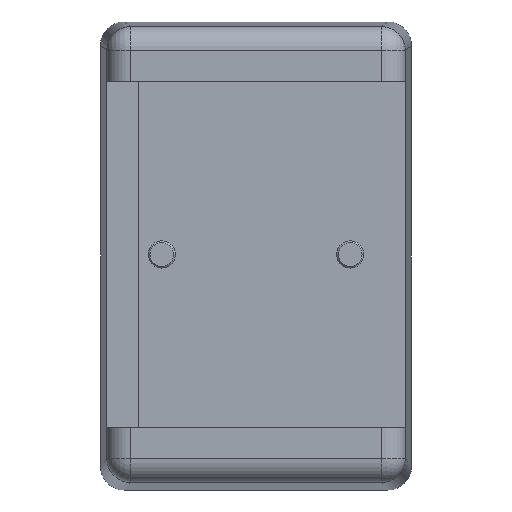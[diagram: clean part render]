
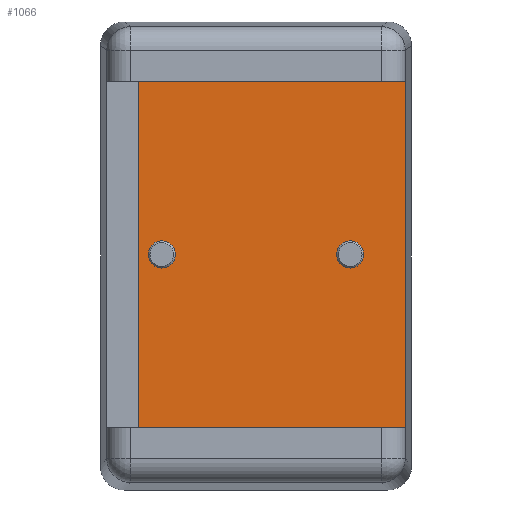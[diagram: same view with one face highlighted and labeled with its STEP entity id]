
A CAD part, top view. The second image highlights one B-rep face of the part: STEP entity #1066.
In plain terms, the highlighted planar face has unit normal (0, 0, 1).
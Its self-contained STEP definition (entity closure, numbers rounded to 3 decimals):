
#708=CARTESIAN_POINT('',(-6.,0.864,54.));
#709=VERTEX_POINT('',#708);
#710=CARTESIAN_POINT('',(-6.,0.,54.));
#711=DIRECTION('',(0.0,0.0,-1.0));
#712=DIRECTION('',(0.0,-1.0,0.0));
#713=AXIS2_PLACEMENT_3D('',#710,#711,#712);
#714=CIRCLE('',#713,0.865);
#715=EDGE_CURVE('',#709,#709,#714,.T.);
#728=CARTESIAN_POINT('',(6.,0.864,54.));
#729=VERTEX_POINT('',#728);
#730=CARTESIAN_POINT('',(6.,0.,54.));
#731=DIRECTION('',(0.0,0.0,-1.0));
#732=DIRECTION('',(0.0,-1.0,0.0));
#733=AXIS2_PLACEMENT_3D('',#730,#731,#732);
#734=CIRCLE('',#733,0.865);
#735=EDGE_CURVE('',#729,#729,#734,.T.);
#880=CARTESIAN_POINT('',(9.5,-11.,54.));
#881=VERTEX_POINT('',#880);
#888=CARTESIAN_POINT('',(-7.499,-11.,54.));
#889=VERTEX_POINT('',#888);
#890=CARTESIAN_POINT('',(9.5,-11.,54.));
#891=DIRECTION('',(-1.0,0.0,0.0));
#892=VECTOR('',#891,16.999);
#893=LINE('',#890,#892);
#894=EDGE_CURVE('',#881,#889,#893,.T.);
#968=CARTESIAN_POINT('',(-7.499,11.,54.));
#969=VERTEX_POINT('',#968);
#977=CARTESIAN_POINT('',(9.5,11.,54.));
#978=VERTEX_POINT('',#977);
#979=CARTESIAN_POINT('',(-7.499,11.,54.));
#980=DIRECTION('',(1.0,0.0,0.0));
#981=VECTOR('',#980,16.999);
#982=LINE('',#979,#981);
#983=EDGE_CURVE('',#969,#978,#982,.T.);
#1017=CARTESIAN_POINT('',(-7.499,11.,54.));
#1018=DIRECTION('',(0.0,-1.0,0.0));
#1019=VECTOR('',#1018,22.0);
#1020=LINE('',#1017,#1019);
#1021=EDGE_CURVE('',#969,#889,#1020,.T.);
#1044=CARTESIAN_POINT('',(0.,0.,54.));
#1045=DIRECTION('',(0.0,0.0,1.0));
#1046=DIRECTION('',(0.0,1.0,0.0));
#1047=AXIS2_PLACEMENT_3D('',#1044,#1045,#1046);
#1048=PLANE('',#1047);
#1049=ORIENTED_EDGE('',*,*,#1021,.T.);
#1050=ORIENTED_EDGE('',*,*,#894,.F.);
#1051=CARTESIAN_POINT('',(9.5,11.,54.));
#1052=DIRECTION('',(0.0,-1.0,0.0));
#1053=VECTOR('',#1052,22.0);
#1054=LINE('',#1051,#1053);
#1055=EDGE_CURVE('',#978,#881,#1054,.T.);
#1056=ORIENTED_EDGE('',*,*,#1055,.F.);
#1057=ORIENTED_EDGE('',*,*,#983,.F.);
#1058=EDGE_LOOP('',(#1049,#1050,#1056,#1057));
#1059=FACE_OUTER_BOUND('',#1058,.T.);
#1060=ORIENTED_EDGE('',*,*,#715,.T.);
#1061=EDGE_LOOP('',(#1060));
#1062=FACE_BOUND('',#1061,.T.);
#1063=ORIENTED_EDGE('',*,*,#735,.T.);
#1064=EDGE_LOOP('',(#1063));
#1065=FACE_BOUND('',#1064,.T.);
#1066=ADVANCED_FACE('',(#1059,#1062,#1065),#1048,.T.);
